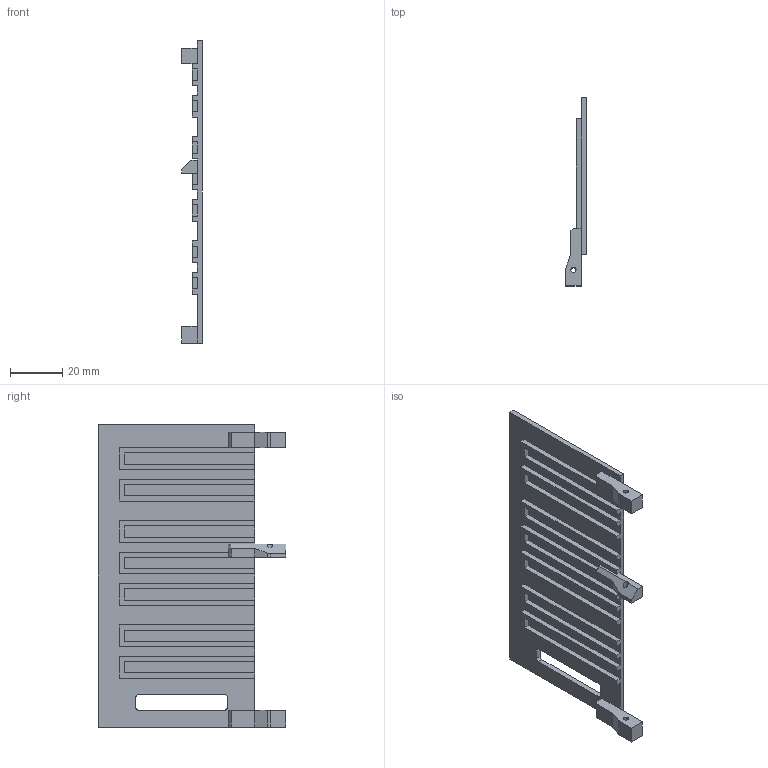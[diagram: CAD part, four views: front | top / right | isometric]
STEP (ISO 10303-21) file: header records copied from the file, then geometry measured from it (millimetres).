
FILE_DESCRIPTION(/* description */ ('STEP AP242','CAx-IF Rec.Pracs.---Representation and Presentation of Product Manufacturing Information (PMI)---4.0---2014-10-13','CAx-IF Rec.Pracs.---3D Tessellated Geometry---0.4---2014-09-14','2;1'),/* implementation_level */ '2;1');
FILE_NAME(/* name */ 'Part Studio 1 - Side Right',/* time_stamp */ '2025-09-04T05:47:29Z',/* author */ (''),/* organization */ (''),/* preprocessor_version */ 'ST-DEVELOPER v20',/* originating_system */ 'ONSHAPE BY PTC INC, 1.203',/* authorisation */ ' ');
FILE_SCHEMA (('AP242_MANAGED_MODEL_BASED_3D_ENGINEERING_MIM_LF { 1 0 10303 442 1 1 4 }'));
Length unit declared in the file: metre
Products named in the file (1): Side Right
Bounding box: 8 x 72 x 116 mm (x, y, z)
Volume: 18224.6 mm3; surface area: 18641.5 mm2
Topology: 1 solids, 1 shells, 103 faces, 300 edges, 198 vertices
Faces by surface type: plane 93, cylinder 10
Full cylindrical faces by diameter (mm): 2 x3
Entity records: 3361 total; most frequent: CARTESIAN_POINT 597, ORIENTED_EDGE 592, DIRECTION 525, EDGE_CURVE 296, LINE 275, VECTOR 275, VERTEX_POINT 197, AXIS2_PLACEMENT_3D 125
